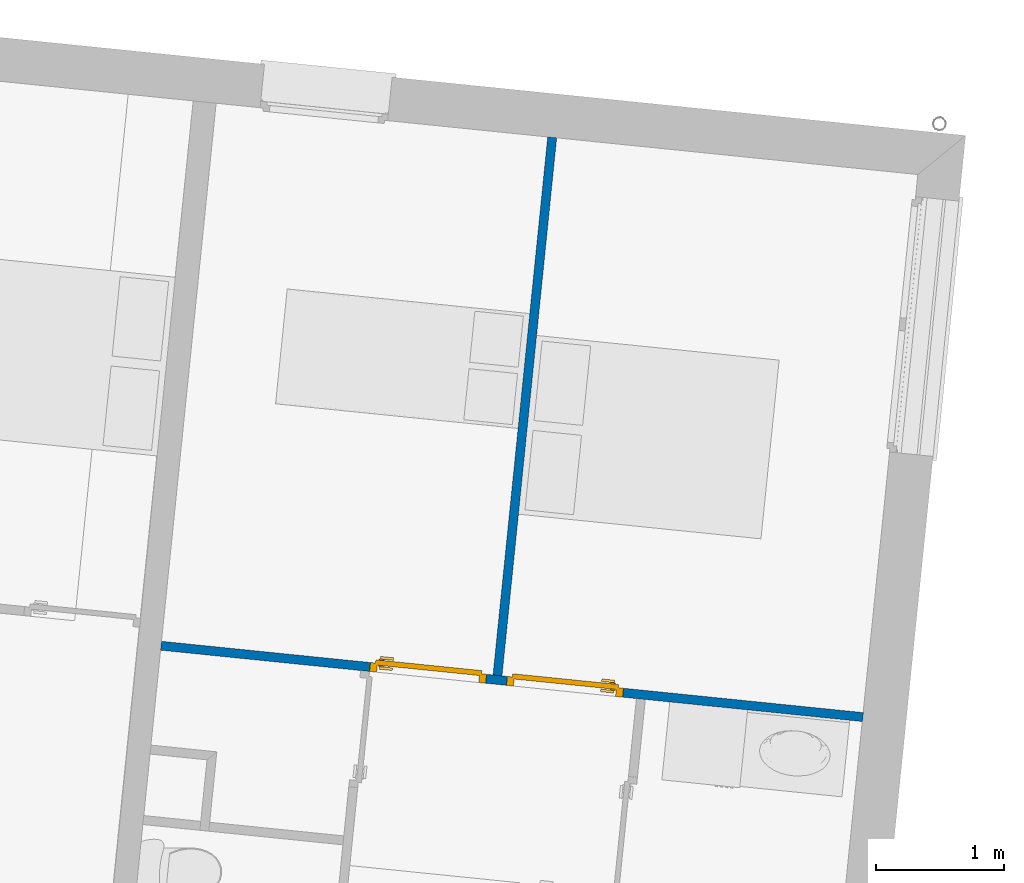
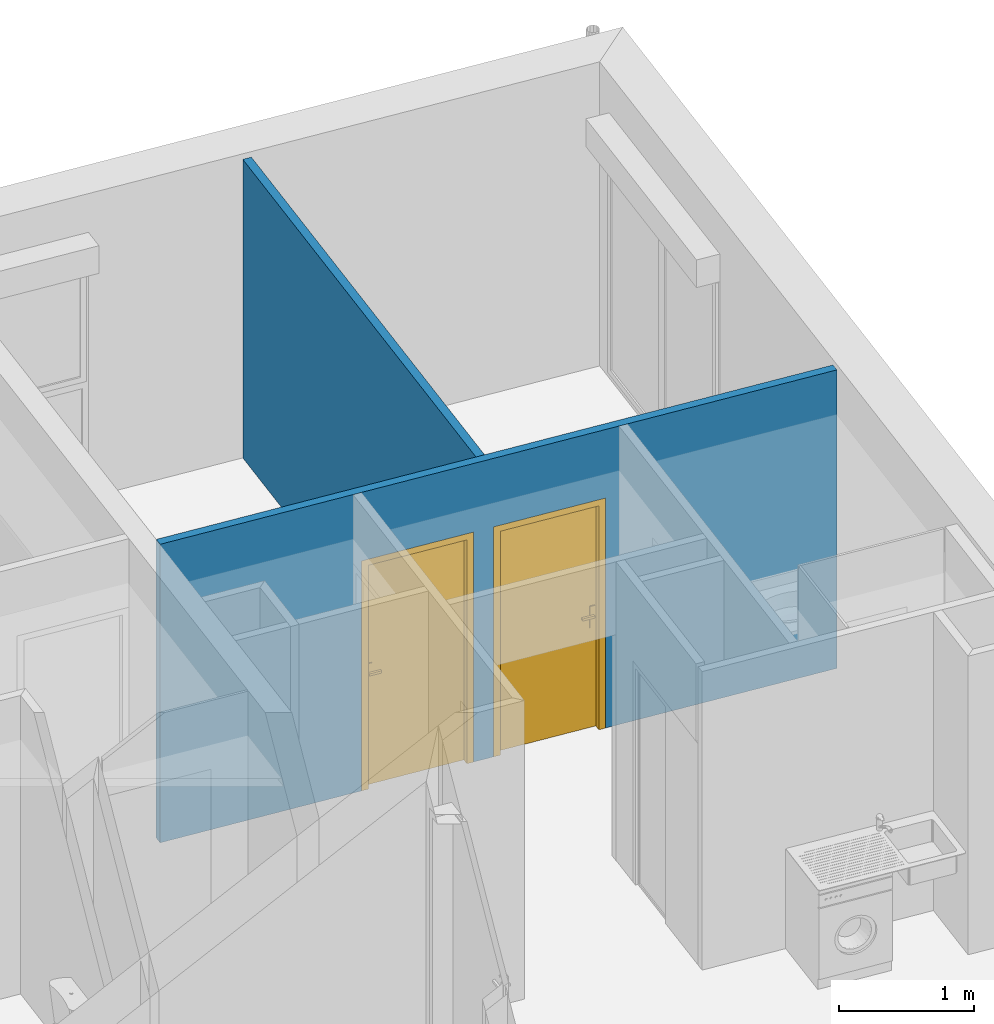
# One storey, part 69 of 164: 2 doors, 2 walls, 2 openings.
"""IFC2X3 building model written with IfcOpenShell, lengths in millimetres."""

from ifc_helpers import new_model, entity, si_unit, converted_unit, derived_unit, money_unit, direction, frame, origin_with_axes, origin_2d_with_axis, place, context, subcontext, project, spatial, polyline, rectangle, outline, extrude, faceted_brep, source, transform, mapped, material, layer, layer_set, layer_usage, type_object, element, fill, save


model = new_model("IFC2X3")

# Units and contexts
model_context = context("Model", 3, precision=0.01, world=origin_with_axes(), true_north=direction((0.0, 1.0)))
body_context = subcontext(model_context, "Body", "Model", "MODEL_VIEW")
ifc_project = project(units=[si_unit("LENGTHUNIT", "METRE", prefix="MILLI"), si_unit("AREAUNIT", "SQUARE_METRE"), si_unit("VOLUMEUNIT", "CUBIC_METRE"), converted_unit("PLANEANGLEUNIT", "DEGREE", entity("IfcPlaneAngleMeasure", 0.0174532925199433), si_unit("PLANEANGLEUNIT", "RADIAN"), dimensions=[0, 0, 0, 0, 0, 0, 0]), money_unit("USD"), converted_unit("TIMEUNIT", "Year", entity("IfcTimeMeasure", 31557600.0), si_unit("TIMEUNIT", "SECOND"), dimensions=[0, 0, 1, 0, 0, 0, 0]), si_unit("MASSUNIT", "GRAM", prefix="KILO"), si_unit("THERMODYNAMICTEMPERATUREUNIT", "DEGREE_CELSIUS"), si_unit("LUMINOUSINTENSITYUNIT", "LUMEN"), si_unit("ENERGYUNIT", "JOULE", prefix="MEGA"), derived_unit("THERMALCONDUCTANCEUNIT", [(si_unit("POWERUNIT", "WATT"), 1), (si_unit("LENGTHUNIT", "METRE"), -1), (si_unit("THERMODYNAMICTEMPERATUREUNIT", "KELVIN"), -1)]), derived_unit("SPECIFICHEATCAPACITYUNIT", [(si_unit("ENERGYUNIT", "JOULE"), 1), (si_unit("MASSUNIT", "GRAM", prefix="KILO"), -1), (si_unit("THERMODYNAMICTEMPERATUREUNIT", "KELVIN"), -1)]), derived_unit("MASSDENSITYUNIT", [(si_unit("MASSUNIT", "GRAM", prefix="KILO"), 1), (si_unit("VOLUMEUNIT", "CUBIC_METRE"), -1)])], contexts=[model_context])

# Site, building, storey
site_placement = place(None, origin_with_axes())
site = spatial("IfcSite", under=ifc_project, at=site_placement, Name="Site", CompositionType="ELEMENT")
building_placement = place(site_placement, origin_with_axes())
building = spatial("IfcBuilding", under=site, at=building_placement, Name="Bâtiment", CompositionType="ELEMENT")
storey_placement = place(building_placement, frame((0.0, 0.0, 5750.0), z_axis=(0.0, 0.0, 1.0), x_axis=(1.0, 0.0, 0.0)))
storey = spatial("IfcBuildingStorey", under=building, at=storey_placement, Name="Etage1", CompositionType="ELEMENT", Elevation=5750.0)

# Wall, openings, doors
ifc_material = material(Name="Hachure solide 268963992")
ifc_layer = layer(ifc_material, 70.0, ventilated="UNKNOWN")
ifc_layer_set = layer_set([ifc_layer], Name="Cloison 70 0826278243")
ifc_layer_usage_1 = layer_usage(ifc_layer_set, "AXIS2", "NEGATIVE", 0.0)
wall_type = type_object("IfcWallType", Name="Cloison 70 0826278243 70", PredefinedType="NOTDEFINED")
wall_1_placement = place(storey_placement, frame((2233915.873099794, -610177.5615369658, 0.0), z_axis=(0.0, 0.0, 1.0), x_axis=(0.9948759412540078, -0.1011032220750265, 0.0)))
wall_1 = element("IfcWallStandardCase", 1, at=wall_1_placement, inside=storey, type_object=wall_type, material=ifc_layer_usage_1, Name="Mur-153", context=body_context, shape_type="SweptSolid", body=[
    extrude(outline(polyline([(0.0, -70.00000000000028), (5498.748593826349, -70.00000000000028), (5498.748593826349, 0.0), (0.0, 0.0), (0.0, -70.00000000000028)])), origin_with_axes(), (0.0, 0.0, 1.0), 2700.0),
])
opening_1_placement = place(wall_1_placement, frame((3164.118617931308, 0.0, 0.0), z_axis=(0.0, 0.0, 1.0), x_axis=(1.0, 0.0, 0.0)))
opening_1 = element("IfcOpeningElement", 2, at=opening_1_placement, cuts=wall_1, Name="Por-282", context=body_context, shape_type="SweptSolid", body=[
    extrude(rectangle(XDim=910.0, YDim=2080.0, at=origin_2d_with_axis()), frame((0.0, -69.99999999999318, 1040.0), z_axis=(0.0, -1.0, 0.0), x_axis=(-1.0, 0.0, 0.0)), (0.0, 0.0, -1.0), 140.0),
])
opening_2_placement = place(wall_1_placement, frame((2091.999269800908, 0.0, 0.0), z_axis=(0.0, 0.0, 1.0), x_axis=(1.0, 0.0, 0.0)))
opening_2 = element("IfcOpeningElement", 3, at=opening_2_placement, cuts=wall_1, Name="Por-281", context=body_context, shape_type="SweptSolid", body=[
    extrude(rectangle(XDim=910.0, YDim=2080.0, at=origin_2d_with_axis()), frame((0.0, -70.0000000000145, 1040.0), z_axis=(0.0, 1.0, 0.0), x_axis=(1.0, 0.0, 0.0)), (0.0, 0.0, 1.0), 140.0),
])
door_style = type_object("IfcDoorStyle", Name="Porte_1v", ConstructionType="NOTDEFINED", OperationType="NOTDEFINED", ParameterTakesPrecedence=False, Sizeable=False)
shared_shape_1 = source(origin_with_axes(), body_context, "Body", "Brep", [
    faceted_brep([(455.0, 0.0, 0.0), (415.0000000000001, 0.0, 0.0), (415.0000000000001, 0.0, 2040.0), (-415.0000000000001, 0.0, 2040.0), (-415.0000000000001, 0.0, 0.0), (-455.0, 0.0, 0.0), (-455.0, 0.0, 2080.0), (455.0, 0.0, 2080.0), (455.0, -70.0, 0.0), (400.0, -70.0, 0.0), (400.0, -15.0, 0.0), (415.0000000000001, -15.0, 0.0), (415.0000000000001, -15.0, 2040.0), (-415.0000000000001, -15.0, 2040.0), (-415.0000000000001, -15.0, 0.0), (-400.0, -15.0, 0.0), (-400.0, -70.0, 0.0), (-455.0, -70.0, 0.0), (-455.0, -70.0, 2080.0), (455.0, -70.0, 2080.0), (-400.0, -70.0, 2025.0), (400.0, -70.0, 2025.0), (400.0, -15.0, 2025.0), (-400.0, -15.0, 2025.0)], [[[0, 1, 2, 3, 4, 5, 6, 7]], [[0, 8, 9, 10, 11, 1]], [[1, 11, 12, 2]], [[2, 12, 13, 3]], [[3, 13, 14, 4]], [[5, 4, 14, 15, 16, 17]], [[18, 6, 5, 17]], [[19, 7, 6, 18]], [[8, 0, 7, 19]], [[9, 8, 19, 18, 17, 16, 20, 21]], [[10, 9, 21, 22]], [[11, 10, 22, 23, 15, 14, 13, 12]], [[23, 20, 16, 15]], [[22, 21, 20, 23]]]),
    faceted_brep([(-350.0000000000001, -15.0, 900.0), (-390.0, -15.0, 900.0), (-390.0, -15.0, 1100.0), (-350.0000000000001, -15.0, 1100.0), (-350.0000000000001, -25.0, 900.0), (-390.0, -25.0, 900.0), (-390.0, -25.0, 1100.0), (-350.0000000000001, -25.0, 1100.0)], [[[0, 1, 2, 3]], [[1, 0, 4, 5]], [[2, 1, 5, 6]], [[3, 2, 6, 7]], [[0, 3, 7, 4]], [[5, 4, 7, 6]]]),
    faceted_brep([(-280.0, -25.0, 1000.0), (-380.0, -25.0, 1000.0), (-380.0, -25.0, 1020.0), (-280.0, -25.0, 1020.0), (-280.0, -45.0, 1000.0), (-380.0, -45.0, 1000.0), (-380.0, -45.0, 1020.0), (-280.0, -45.0, 1020.0)], [[[0, 1, 2, 3]], [[1, 0, 4, 5]], [[2, 1, 5, 6]], [[3, 2, 6, 7]], [[0, 3, 7, 4]], [[5, 4, 7, 6]]]),
    faceted_brep([(-350.0000000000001, 35.0, 900.0), (-390.0, 35.0, 900.0), (-390.0, 35.0, 1100.0), (-350.0000000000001, 35.0, 1100.0), (-350.0000000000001, 25.0, 900.0), (-390.0, 25.0, 900.0), (-390.0, 25.0, 1100.0), (-350.0000000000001, 25.0, 1100.0)], [[[0, 1, 2, 3]], [[1, 0, 4, 5]], [[2, 1, 5, 6]], [[3, 2, 6, 7]], [[0, 3, 7, 4]], [[5, 4, 7, 6]]]),
    faceted_brep([(-280.0, 55.00000000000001, 1000.0), (-380.0, 55.00000000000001, 1000.0), (-380.0, 55.00000000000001, 1020.0), (-280.0, 55.00000000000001, 1020.0), (-280.0, 35.0, 1000.0), (-380.0, 35.0, 1000.0), (-380.0, 35.0, 1020.0), (-280.0, 35.0, 1020.0)], [[[0, 1, 2, 3]], [[1, 0, 4, 5]], [[2, 1, 5, 6]], [[3, 2, 6, 7]], [[0, 3, 7, 4]], [[5, 4, 7, 6]]]),
    faceted_brep([(-415.0000000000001, 25.0, 0.0), (415.0000000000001, 25.0, 0.0), (415.0000000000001, -15.0, 0.0), (-415.0000000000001, -15.0, 0.0), (-415.0000000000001, 25.0, 2040.0), (415.0000000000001, 25.0, 2040.0), (415.0000000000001, -15.0, 2040.0), (-415.0000000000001, -15.0, 2040.0)], [[[0, 1, 2, 3]], [[0, 4, 5, 1]], [[1, 5, 6, 2]], [[3, 2, 6, 7]], [[4, 0, 3, 7]], [[5, 4, 7, 6]]]),
])
door_1_placement = place(opening_2_placement, frame((-415.0000000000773, 0.0, 0.0), z_axis=(0.0, 0.0, 1.0), x_axis=(1.0, 0.0, 0.0)))
door_1 = element("IfcDoor", 4, at=door_1_placement, inside=storey, type_object=door_style, Name="Por-281", OverallHeight=2040.0, OverallWidth=830.0, context=body_context, shape_type="MappedRepresentation", body=[
    mapped(shared_shape_1, transform((414.9999999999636, 0.0, 0.0))),
])
fill(opening_2, door_1)
shared_shape_2 = source(origin_with_axes(), body_context, "Body", "Brep", [
    faceted_brep([(-454.9999999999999, 0.0, 0.0), (-454.9999999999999, 0.0, 2080.0), (454.9999999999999, 0.0, 2080.0), (454.9999999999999, 0.0, 0.0), (414.9999999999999, 0.0, 0.0), (414.9999999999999, 0.0, 2040.0), (-414.9999999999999, 0.0, 2040.0), (-414.9999999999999, 0.0, 0.0), (-454.9999999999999, -69.99999999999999, 0.0), (-454.9999999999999, -69.99999999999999, 2080.0), (454.9999999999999, -69.99999999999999, 2080.0), (454.9999999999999, -69.99999999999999, 0.0), (399.9999999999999, -69.99999999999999, 0.0), (399.9999999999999, -15.0, 0.0), (414.9999999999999, -15.0, 0.0), (414.9999999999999, -15.0, 2040.0), (-414.9999999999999, -14.99999999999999, 2040.0), (-414.9999999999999, -14.99999999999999, 0.0), (-399.9999999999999, -14.99999999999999, 0.0), (-399.9999999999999, -69.99999999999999, 0.0), (-399.9999999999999, -69.99999999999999, 2025.0), (399.9999999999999, -69.99999999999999, 2025.0), (399.9999999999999, -15.0, 2025.0), (-399.9999999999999, -14.99999999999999, 2025.0)], [[[0, 1, 2, 3, 4, 5, 6, 7]], [[8, 9, 1, 0]], [[9, 10, 2, 1]], [[10, 11, 3, 2]], [[3, 11, 12, 13, 14, 4]], [[5, 4, 14, 15]], [[6, 5, 15, 16]], [[7, 6, 16, 17]], [[0, 7, 17, 18, 19, 8]], [[19, 20, 21, 12, 11, 10, 9, 8]], [[22, 13, 12, 21]], [[17, 16, 15, 14, 13, 22, 23, 18]], [[18, 23, 20, 19]], [[23, 22, 21, 20]]]),
    faceted_brep([(350.0, -15.0, 900.0), (350.0, -15.0, 1100.0), (389.9999999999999, -15.0, 1100.0), (389.9999999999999, -15.0, 900.0), (350.0, -25.0, 900.0), (350.0, -25.0, 1100.0), (389.9999999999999, -25.0, 1100.0), (389.9999999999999, -25.0, 900.0)], [[[0, 1, 2, 3]], [[0, 4, 5, 1]], [[1, 5, 6, 2]], [[2, 6, 7, 3]], [[3, 7, 4, 0]], [[7, 6, 5, 4]]]),
    faceted_brep([(279.9999999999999, -25.0, 1000.0), (279.9999999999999, -25.0, 1020.0), (379.9999999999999, -25.0, 1020.0), (379.9999999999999, -25.0, 1000.0), (279.9999999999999, -45.0, 1000.0), (279.9999999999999, -45.0, 1020.0), (379.9999999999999, -45.0, 1020.0), (379.9999999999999, -45.0, 1000.0)], [[[0, 1, 2, 3]], [[0, 4, 5, 1]], [[1, 5, 6, 2]], [[2, 6, 7, 3]], [[3, 7, 4, 0]], [[7, 6, 5, 4]]]),
    faceted_brep([(350.0, 34.99999999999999, 900.0), (350.0, 34.99999999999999, 1100.0), (389.9999999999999, 34.99999999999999, 1100.0), (389.9999999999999, 34.99999999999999, 900.0), (350.0, 24.99999999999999, 900.0), (350.0, 24.99999999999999, 1100.0), (389.9999999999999, 24.99999999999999, 1100.0), (389.9999999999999, 24.99999999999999, 900.0)], [[[0, 1, 2, 3]], [[0, 4, 5, 1]], [[1, 5, 6, 2]], [[2, 6, 7, 3]], [[3, 7, 4, 0]], [[7, 6, 5, 4]]]),
    faceted_brep([(279.9999999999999, 54.99999999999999, 1000.0), (279.9999999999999, 54.99999999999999, 1020.0), (379.9999999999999, 54.99999999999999, 1020.0), (379.9999999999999, 54.99999999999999, 1000.0), (279.9999999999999, 34.99999999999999, 1000.0), (279.9999999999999, 34.99999999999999, 1020.0), (379.9999999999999, 34.99999999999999, 1020.0), (379.9999999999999, 34.99999999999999, 1000.0)], [[[0, 1, 2, 3]], [[0, 4, 5, 1]], [[1, 5, 6, 2]], [[2, 6, 7, 3]], [[3, 7, 4, 0]], [[7, 6, 5, 4]]]),
    faceted_brep([(414.9999999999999, 24.99999999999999, 0.0), (414.9999999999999, -15.0, 0.0), (-414.9999999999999, -14.99999999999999, 0.0), (-414.9999999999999, 25.0, 0.0), (414.9999999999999, 24.99999999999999, 2040.0), (414.9999999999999, -15.0, 2040.0), (-414.9999999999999, -14.99999999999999, 2040.0), (-414.9999999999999, 25.0, 2040.0)], [[[0, 1, 2, 3]], [[4, 5, 1, 0]], [[1, 5, 6, 2]], [[3, 2, 6, 7]], [[0, 3, 7, 4]], [[7, 6, 5, 4]]]),
])
door_2_placement = place(opening_1_placement, frame((-414.9999999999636, 0.0, 0.0), z_axis=(0.0, 0.0, 1.0), x_axis=(1.0, 0.0, 0.0)))
door_2 = element("IfcDoor", 5, at=door_2_placement, inside=storey, type_object=door_style, Name="Por-282", OverallHeight=2040.0, OverallWidth=830.0, context=body_context, shape_type="MappedRepresentation", body=[
    mapped(shared_shape_2, transform((414.9999999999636, 0.0, 0.0))),
])
fill(opening_1, door_2)

# Wall
ifc_layer_usage_2 = layer_usage(ifc_layer_set, "AXIS2", "NEGATIVE", 0.0)
wall_2_placement = place(storey_placement, frame((2237030.094661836, -605915.7464026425, 0.0), z_axis=(0.0, 0.0, 1.0), x_axis=(-0.1011032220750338, -0.9948759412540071, 0.0)))
element("IfcWallStandardCase", 6, at=wall_2_placement, inside=storey, type_object=wall_type, material=ifc_layer_usage_2, Name="Mur-153", context=body_context, shape_type="SweptSolid", body=[
    extrude(outline(polyline([(340.0000000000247, -70.00000000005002), (4554.835177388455, -69.99999999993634), (4554.835177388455, 0.0), (340.0000000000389, 0.0), (340.0000000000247, -70.00000000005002)])), origin_with_axes(), (0.0, 0.0, 1.0), 2700.0),
])

save(model, "model.ifc")
